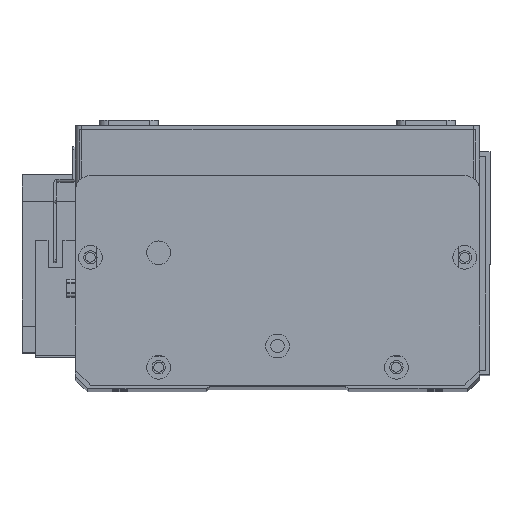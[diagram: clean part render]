
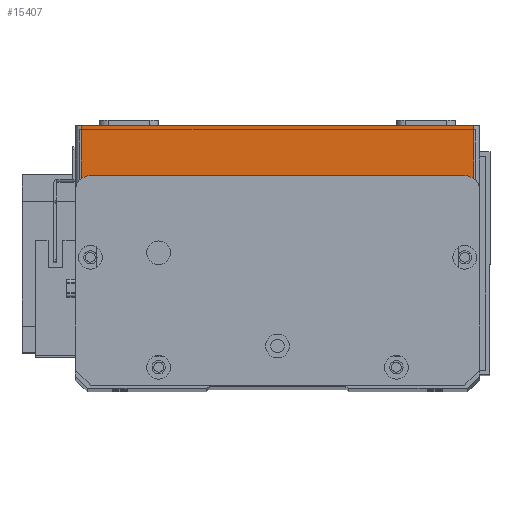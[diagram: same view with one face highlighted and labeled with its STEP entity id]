
A CAD part, top view. The second image highlights one B-rep face of the part: STEP entity #15407.
In plain terms, the highlighted planar face has unit normal (0, 0, 1) as drawn and (0, -1, 0) by its records, which use the part's own axes.
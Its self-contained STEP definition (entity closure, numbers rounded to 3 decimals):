
#941 = ORIENTED_EDGE ( 'NONE', *, *, #14225, .T. ) ;
#1257 = ORIENTED_EDGE ( 'NONE', *, *, #8187, .T. ) ;
#1471 = DIRECTION ( 'NONE',  ( 0., 0., 1. ) ) ;
#1565 = CARTESIAN_POINT ( 'NONE',  ( 134., 0., 19.5 ) ) ;
#1602 = EDGE_CURVE ( 'NONE', #18523, #17730, #9721, .T. ) ;
#2438 = CARTESIAN_POINT ( 'NONE',  ( 134., 0., 19.5 ) ) ;
#4867 = VECTOR ( 'NONE', #11873, 1000. ) ;
#6267 = LINE ( 'NONE', #10976, #4867 ) ;
#6788 = VERTEX_POINT ( 'NONE', #14356 ) ;
#7425 = VECTOR ( 'NONE', #1471, 1000. ) ;
#8187 = EDGE_CURVE ( 'NONE', #6788, #10017, #20178, .T. ) ;
#9017 = DIRECTION ( 'NONE',  ( 0., 0., 1. ) ) ;
#9050 = DIRECTION ( 'NONE',  ( 0., 1., 0. ) ) ;
#9128 = EDGE_CURVE ( 'NONE', #18523, #10017, #22824, .T. ) ;
#9152 = CARTESIAN_POINT ( 'NONE',  ( 0., 0., 19.5 ) ) ;
#9248 = PLANE ( 'NONE',  #20906 ) ;
#9721 = LINE ( 'NONE', #26859, #15734 ) ;
#10017 = VERTEX_POINT ( 'NONE', #2438 ) ;
#10852 = VECTOR ( 'NONE', #23823, 1000. ) ;
#10976 = CARTESIAN_POINT ( 'NONE',  ( 0., 0., 0. ) ) ;
#11873 = DIRECTION ( 'NONE',  ( 1., 0., 0. ) ) ;
#14225 = EDGE_CURVE ( 'NONE', #17730, #6788, #6267, .T. ) ;
#14356 = CARTESIAN_POINT ( 'NONE',  ( 134., 0., 0. ) ) ;
#15407 = ADVANCED_FACE ( 'NONE', ( #23692 ), #9248, .F. ) ;
#15734 = VECTOR ( 'NONE', #24736, 1000. ) ;
#16839 = EDGE_LOOP ( 'NONE', ( #27698, #28274, #941, #1257 ) ) ;
#17730 = VERTEX_POINT ( 'NONE', #17954 ) ;
#17954 = CARTESIAN_POINT ( 'NONE',  ( 2., 0., 0. ) ) ;
#18523 = VERTEX_POINT ( 'NONE', #22399 ) ;
#20178 = LINE ( 'NONE', #1565, #7425 ) ;
#20906 = AXIS2_PLACEMENT_3D ( 'NONE', #9152, #9050, #9017 ) ;
#22399 = CARTESIAN_POINT ( 'NONE',  ( 2., 0., 19.5 ) ) ;
#22824 = LINE ( 'NONE', #24236, #10852 ) ;
#23692 = FACE_OUTER_BOUND ( 'NONE', #16839, .T. ) ;
#23823 = DIRECTION ( 'NONE',  ( 1., 0., 0. ) ) ;
#24236 = CARTESIAN_POINT ( 'NONE',  ( 0., 0., 19.5 ) ) ;
#24736 = DIRECTION ( 'NONE',  ( 0., 0., -1. ) ) ;
#26859 = CARTESIAN_POINT ( 'NONE',  ( 2., 0., 19.5 ) ) ;
#27698 = ORIENTED_EDGE ( 'NONE', *, *, #9128, .F. ) ;
#28274 = ORIENTED_EDGE ( 'NONE', *, *, #1602, .T. ) ;
